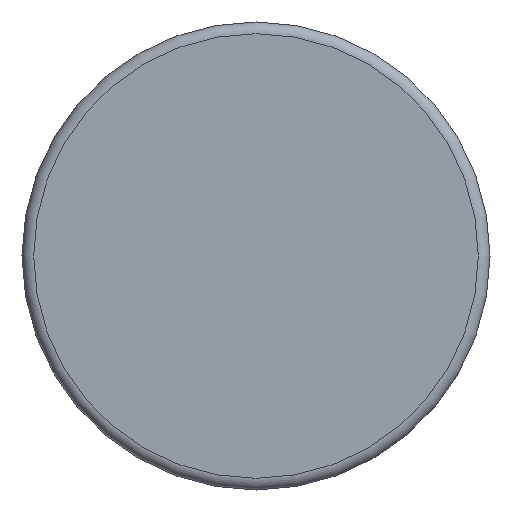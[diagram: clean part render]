
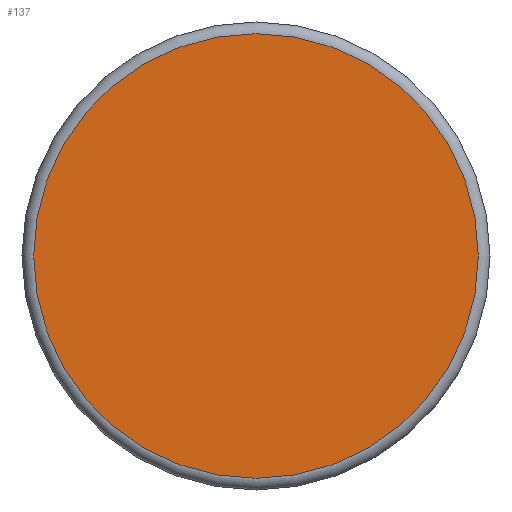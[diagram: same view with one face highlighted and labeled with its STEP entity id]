
A CAD part, front view. The second image highlights one B-rep face of the part: STEP entity #137.
In plain terms, the highlighted planar face has unit normal (0, -1, 0).
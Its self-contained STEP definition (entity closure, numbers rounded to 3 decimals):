
#137 = ADVANCED_FACE( '', ( #280 ), #281, .F. );
#280 = FACE_OUTER_BOUND( '', #462, .T. );
#281 = PLANE( '', #463 );
#462 = EDGE_LOOP( '', ( #634 ) );
#463 = AXIS2_PLACEMENT_3D( '', #635, #636, #637 );
#634 = ORIENTED_EDGE( '', *, *, #1010, .T. );
#635 = CARTESIAN_POINT( '', ( 19., 0., 0. ) );
#636 = DIRECTION( '', ( 0., 1., 0. ) );
#637 = DIRECTION( '', ( 0., 0., 1. ) );
#1010 = EDGE_CURVE( '', #1152, #1152, #1153, .T. );
#1152 = VERTEX_POINT( '', #1348 );
#1153 = CIRCLE( '', #1349, 19. );
#1348 = CARTESIAN_POINT( '', ( 0., 0., -19. ) );
#1349 = AXIS2_PLACEMENT_3D( '', #1822, #1823, #1824 );
#1822 = CARTESIAN_POINT( '', ( 0., 0., 0. ) );
#1823 = DIRECTION( '', ( 0., -1., 0. ) );
#1824 = DIRECTION( '', ( 0., 0., -1. ) );
